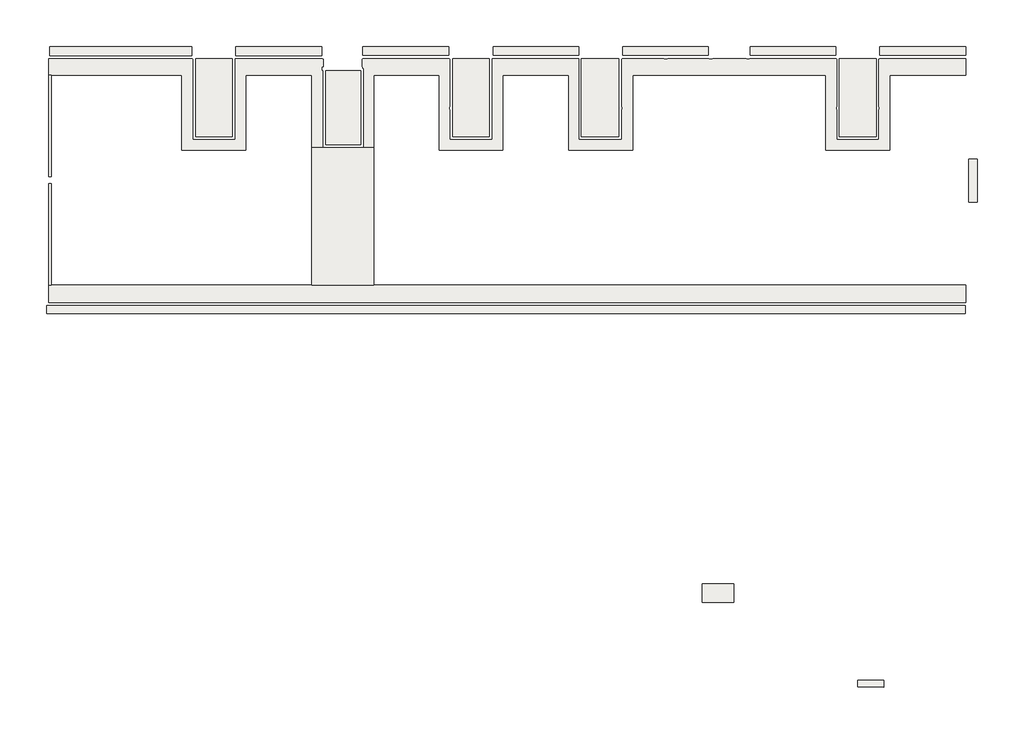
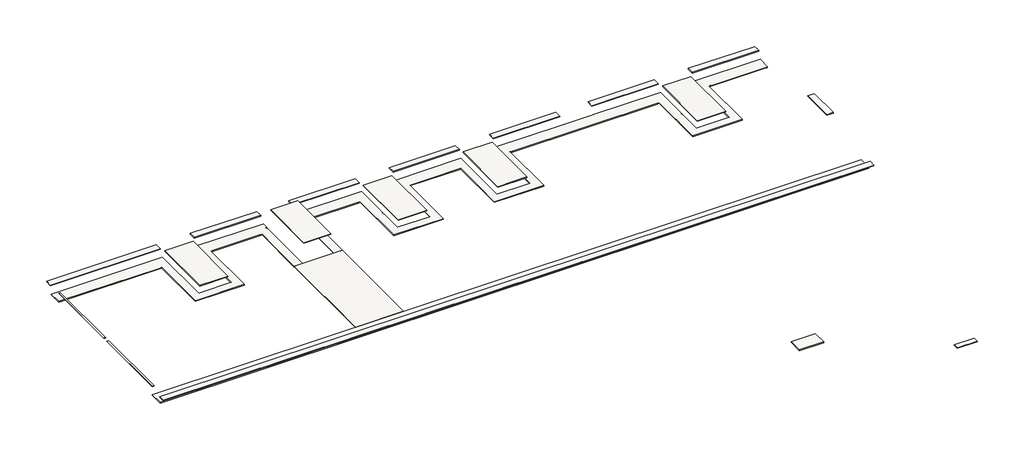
# One storey: 17 slabs.
"""IFC4 building model written with IfcOpenShell, lengths in millimetres."""

from ifc_helpers import new_model, si_unit, frame, origin, place, context, project, spatial, polyline, outline, extrude, element, save

model = new_model("IFC4")

# Units and contexts
model_context = context("Model", 3, world=origin())
ifc_project = project(units=[si_unit("LENGTHUNIT", "METRE", prefix="MILLI")], contexts=[model_context])

# Site, building, storey
site = spatial("IfcSite", under=ifc_project)
building = spatial("IfcBuilding", under=site)
storey = spatial("IfcBuildingStorey", under=building, Name="PLANTA DE IMPERMEABILIZAÇÃO - COBERTURA", Elevation=62540.0)

# Slabs
placement = place(None, origin())
element("IfcSlab", 1, ObjectType="Lajes de cobertura ou terraço", at=placement, inside=storey, context=model_context, shape_type="SweptSolid", body=[
    extrude(outline(polyline([(-45239.549875, 30656.8823997), (-45239.549875, 29873.2226879), (-57817.049875, 29873.2226879), (-57817.049875, 30656.8823997), (-45239.549875, 30656.8823997)])), frame((0.0, 0.0, 61165.0), z_axis=(0.0, 0.0, 1.0), x_axis=(1.0, 0.0, 0.0)), (0.0, 0.0, 1.0), 75.0),
])
element("IfcSlab", 2, ObjectType="Lajes de cobertura ou terraço", at=placement, inside=storey, context=model_context, shape_type="SweptSolid", body=[
    extrude(outline(polyline([(-33749.549875, 30656.8823997), (-33749.549875, 29873.2226879), (-41349.549875, 29873.2226879), (-41349.549875, 30656.8823997), (-33749.549875, 30656.8823997)])), frame((0.0, 0.0, 61165.0), z_axis=(0.0, 0.0, 1.0), x_axis=(1.0, 0.0, 0.0)), (0.0, 0.0, 1.0), 75.0),
])
element("IfcSlab", 3, ObjectType="Lajes de cobertura ou terraço", at=placement, inside=storey, context=model_context, shape_type="SweptSolid", body=[
    extrude(outline(polyline([(-22474.549875, 30656.8823997), (-22474.549875, 29881.8823991), (-30102.049875, 29881.8823991), (-30102.049875, 30656.8823997), (-22474.549875, 30656.8823997)])), frame((0.0, 0.0, 61165.0), z_axis=(0.0, 0.0, 1.0), x_axis=(1.0, 0.0, 0.0)), (0.0, 0.0, 1.0), 75.0),
])
element("IfcSlab", 4, ObjectType="Lajes de cobertura ou terraço", at=placement, inside=storey, context=model_context, shape_type="SweptSolid", body=[
    extrude(outline(polyline([(-10982.049875, 30656.8823997), (-10982.049875, 29893.7226879), (-18567.049875, 29893.7226879), (-18567.049875, 30656.8823997), (-10982.049875, 30656.8823997)])), frame((0.0, 0.0, 61165.0), z_axis=(0.0, 0.0, 1.0), x_axis=(1.0, 0.0, 0.0)), (0.0, 0.0, 1.0), 75.0),
])
element("IfcSlab", 5, ObjectType="Lajes de cobertura ou terraço", at=placement, inside=storey, context=model_context, shape_type="SweptSolid", body=[
    extrude(outline(polyline([(513.4501347, 30656.8823997), (513.4501347, 29881.8823991), (-7079.549875, 29881.8823991), (-7079.549875, 30656.8823997), (513.4501347, 30656.8823997)])), frame((0.0, 0.0, 61165.0), z_axis=(0.0, 0.0, 1.0), x_axis=(1.0, 0.0, 0.0)), (0.0, 0.0, 1.0), 75.0),
])
element("IfcSlab", 6, ObjectType="Lajes de cobertura ou terraço", at=placement, inside=storey, context=model_context, shape_type="SweptSolid", body=[
    extrude(outline(polyline([(11780.450125, 30656.8823997), (11780.450125, 29881.8823991), (4195.450125, 29881.8823991), (4195.450125, 30656.8823997), (11780.450125, 30656.8823997)])), frame((0.0, 0.0, 61165.0), z_axis=(0.0, 0.0, 1.0), x_axis=(1.0, 0.0, 0.0)), (0.0, 0.0, 1.0), 75.0),
])
element("IfcSlab", 7, ObjectType="Lajes de cobertura ou terraço", at=placement, inside=storey, context=model_context, shape_type="SweptSolid", body=[
    extrude(outline(polyline([(23280.450125, 30667.7071947), (23280.450125, 29881.8823991), (15687.950125, 29881.8823991), (15687.950125, 30667.7071947), (23280.450125, 30667.7071947)])), frame((0.0, 0.0, 61165.0), z_axis=(0.0, 0.0, 1.0), x_axis=(1.0, 0.0, 0.0)), (0.0, 0.0, 1.0), 75.0),
])
element("IfcSlab", 8, ObjectType="Lajes de cobertura ou terraço", at=placement, inside=storey, context=model_context, shape_type="SweptSolid", body=[
    extrude(outline(polyline([(23570.450125, 20672.5823991), (24332.0605113, 20672.5823991), (24332.0605113, 16899.3823991), (23570.450125, 16899.3823991), (23570.450125, 20672.5823991)])), frame((0.0, 0.0, 61165.0), z_axis=(0.0, 0.0, 1.0), x_axis=(1.0, 0.0, 0.0)), (0.0, 0.0, 1.0), 75.0),
])
element("IfcSlab", 9, ObjectType="Lajes de cobertura ou terraço", at=placement, inside=storey, context=model_context, shape_type="SweptSolid", body=[
    extrude(outline(polyline([(-58107.049875, 7726.8823909), (23272.3652158, 7726.8823909), (23272.3652158, 7010.5733494), (-58107.049875, 7010.5733494), (-58107.049875, 7726.8823909)])), frame((0.0, 0.0, 61165.0), z_axis=(0.0, 0.0, 1.0), x_axis=(1.0, 0.0, 0.0)), (0.0, 0.0, 1.0), 75.0),
])
element("IfcSlab", 10, ObjectType="Calhas, telhados metálicos, telhas, sheds, lajes inclinadas e vigas-calha", at=placement, inside=storey, context=model_context, shape_type="SweptSolid", body=[
    extrude(outline(polyline([(-57904.5498791, 7976.8823909), (-57904.5498791, 9512.2823996), (23280.4501291, 9512.2823996), (23280.4501291, 7976.8823909), (-57904.5498791, 7976.8823909)])), frame((0.0, 0.0, 60246.0), z_axis=(0.0, 0.0, 1.0), x_axis=(1.0, 0.0, 0.0)), (0.0, 0.0, 1.0), 94.0),
])
element("IfcSlab", 11, ObjectType="Lajes de cobertura ou terraço", at=placement, inside=storey, context=model_context, shape_type="SweptSolid", body=[
    extrude(outline(polyline([(-34599.549875, 9517.2823996), (-34599.549875, 21699.5070652), (-29147.049875, 21699.5070652), (-29147.049875, 9517.2823996), (-34599.549875, 9517.2823996)])), frame((0.0, 0.0, 60265.0), z_axis=(0.0, 0.0, 1.0), x_axis=(1.0, 0.0, 0.0)), (0.0, 0.0, 1.0), 75.0),
])
element("IfcSlab", 12, ObjectType="Calhas, telhados metálicos, telhas, sheds, lajes inclinadas e vigas-calha", at=placement, inside=storey, context=model_context, shape_type="SweptSolid", body=[
    extrude(outline(polyline([(-57707.049875, 28121.8823991), (-57904.5498791, 28121.8823991), (-57904.5498791, 29581.8824032), (-45204.5498791, 29581.8824032), (-45204.5498791, 29521.8824032), (-45159.5498791, 29521.8824032), (-45159.5498791, 22421.8823909), (-41414.5498709, 22421.8823909), (-41414.5498709, 29554.7226879), (-41384.5467035, 29554.7226879), (-41384.5467035, 29581.8824032), (-33704.5467035, 29581.8824032), (-33704.5467035, 29530.2226879), (-33609.549875, 29530.2226879), (-33609.549875, 28873.439065), (-33718.546705, 28873.439065), (-33718.546705, 28530.439065), (-33652.049875, 28530.439065), (-33652.049875, 21701.8823991), (-34599.549875, 21701.8823991), (-34599.549875, 28126.8823991), (-34844.549875, 28126.8823991), (-34844.549875, 28106.8823991), (-40217.049875, 28106.8823991), (-40217.049875, 28121.8823991), (-40457.049875, 28121.8823991), (-40457.049875, 21466.882395), (-46112.049875, 21466.882395), (-46112.049875, 28121.8823991), (-46352.049875, 28121.8823991), (-46352.049875, 28106.8823991), (-57707.049875, 28106.8823991), (-57707.049875, 28121.8823991)])), frame((0.0, 0.0, 60246.0), z_axis=(0.0, 0.0, 1.0), x_axis=(1.0, 0.0, 0.0)), (0.0, 0.0, 1.0), 94.0),
    extrude(outline(polyline([(-30034.549875, 21699.5070652), (-30034.549875, 28761.8823991), (-30090.5467035, 28761.8823991), (-30090.5467035, 28873.439065), (-30134.549875, 28873.439065), (-30134.549875, 29530.2226879), (-30090.5467035, 29530.2226879), (-30090.5467035, 29581.8824032), (-22448.5467035, 29581.8824032), (-22448.5467035, 29530.2226879), (-22394.549875, 29530.2226879), (-22394.549875, 25348.7226891), (-22424.5467035, 25348.7226891), (-22424.5467035, 25054.7226891), (-22394.549875, 25054.7226891), (-22394.549875, 22421.882395), (-18649.549875, 22421.882395), (-18649.549875, 25054.7226891), (-18619.5467035, 25054.7226891), (-18619.5467035, 25348.7226891), (-18649.549875, 25348.7226891), (-18649.549875, 29554.7226879), (-18619.549875, 29554.7226879), (-18619.549875, 29581.8824032), (-10984.549875, 29581.8824032), (-10984.549875, 22421.882395), (-7159.549875, 22421.882395), (-7159.549875, 25054.7226891), (-7129.5467035, 25054.7226891), (-7129.5467035, 25348.7226891), (-7160.0482892, 25348.7226891), (-7160.0482892, 29530.2226879), (-7105.5467035, 29530.2226879), (-7105.5467035, 29581.8824032), (-3456.0467035, 29581.8824032), (-3456.0467035, 29530.2226879), (-3108.0467035, 29530.2226879), (-3108.0467035, 29581.8824032), (541.4532965, 29581.8824032), (541.4532965, 29530.2226879), (889.4532965, 29530.2226879), (889.4532965, 29581.8824032), (3845.4532965, 29581.8824032), (3845.4532965, 29554.7226879), (4145.4532965, 29554.7226879), (4145.4532965, 29581.8824032), (11806.4532965, 29581.8824032), (11806.4532965, 29530.2226879), (11860.450125, 29530.2226879), (11860.450125, 25348.7226891), (11830.4532965, 25348.7226891), (11830.4532965, 25054.7226891), (11860.450125, 25054.7226891), (11860.450125, 22421.882395), (15605.450125, 22421.882395), (15605.450125, 25054.7226891), (15635.4532965, 25054.7226891), (15635.4532965, 25348.7226891), (15606.2017108, 25348.7226891), (15606.2017108, 29530.2226879), (15659.4532965, 29530.2226879), (15659.4532965, 29581.8824032), (23280.450125, 29581.8824032), (23280.450125, 28121.8823991), (23160.450125, 28121.8823991), (23160.450125, 28106.8823991), (16800.450125, 28106.8823991), (16800.450125, 28121.8823991), (16560.450125, 28121.8823991), (16560.450125, 21466.882395), (10905.450125, 21466.882395), (10905.450125, 28121.8823991), (10665.450125, 28121.8823991), (10665.450125, 28106.8823991), (-5964.549875, 28106.8823991), (-5964.549875, 28121.8823991), (-6204.549875, 28121.8823991), (-6204.549875, 21466.882395), (-11854.549875, 21466.882395), (-11854.549875, 28121.8823991), (-17694.549875, 28121.8823991), (-17694.549875, 21466.882395), (-23349.549875, 21466.882395), (-23349.549875, 28121.8823991), (-23589.549875, 28121.8823991), (-23589.549875, 28106.4002746), (-29147.049875, 28106.4002746), (-29147.049875, 21699.5070652), (-30034.549875, 21699.5070652)])), frame((0.0, 0.0, 60246.0), z_axis=(0.0, 0.0, 1.0), x_axis=(1.0, 0.0, 0.0)), (0.0, 0.0, 1.0), 94.0),
])
element("IfcSlab", 13, ObjectType="Lajes de cobertura ou terraço", at=placement, inside=storey, context=model_context, shape_type="SweptSolid", body=[
    extrude(outline(polyline([(-41664.5467035, 22671.8823909), (-44909.5498791, 22671.8823909), (-44909.5498791, 29574.7226879), (-41664.5467035, 29574.7226879), (-41664.5467035, 22671.8823909)])), frame((0.0, 0.0, 60965.0), z_axis=(0.0, 0.0, 1.0), x_axis=(1.0, 0.0, 0.0)), (0.0, 0.0, 1.0), 75.0),
    extrude(outline(polyline([(-18899.5467035, 22671.882395), (-22144.549875, 22671.882395), (-22144.549875, 29574.7226879), (-18899.5467035, 29574.7226879), (-18899.5467035, 22671.882395)])), frame((0.0, 0.0, 60965.0), z_axis=(0.0, 0.0, 1.0), x_axis=(1.0, 0.0, 0.0)), (0.0, 0.0, 1.0), 75.0),
    extrude(outline(polyline([(-7411.9576067, 22671.882395), (-10734.549875, 22671.882395), (-10734.549875, 29581.8824032), (-7411.9576067, 29581.8824032), (-7411.9576067, 22671.882395)])), frame((0.0, 0.0, 60965.0), z_axis=(0.0, 0.0, 1.0), x_axis=(1.0, 0.0, 0.0)), (0.0, 0.0, 1.0), 75.0),
    extrude(outline(polyline([(15347.947473, 22671.882395), (12110.450125, 22671.882395), (12110.450125, 29581.8824032), (15347.947473, 29581.8824032), (15347.947473, 22671.882395)])), frame((0.0, 0.0, 60965.0), z_axis=(0.0, 0.0, 1.0), x_axis=(1.0, 0.0, 0.0)), (0.0, 0.0, 1.0), 75.0),
])
element("IfcSlab", 14, ObjectType="Lajes de cobertura ou terraço", at=placement, inside=storey, context=model_context, shape_type="SweptSolid", body=[
    extrude(outline(polyline([(-30284.549875, 28511.8823991), (-30284.549875, 21951.8823991), (-33402.049875, 21951.8823991), (-33402.049875, 28511.8823991), (-30284.549875, 28511.8823991)])), frame((0.0, 0.0, 62565.0), z_axis=(0.0, 0.0, 1.0), x_axis=(1.0, 0.0, 0.0)), (0.0, 0.0, 1.0), 75.0),
])
element("IfcSlab", 15, ObjectType="Rufo", at=placement, inside=storey, context=model_context, shape_type="SweptSolid", body=[
    extrude(outline(polyline([(-57707.049875, 28121.8823991), (-57707.049875, 19119.9010586), (-57904.5498791, 19119.9010586), (-57904.5498791, 28121.8823991), (-57707.049875, 28121.8823991)])), frame((0.0, 0.0, 61320.0), z_axis=(0.0, 0.0, 1.0), x_axis=(1.0, 0.0, 0.0)), (0.0, 0.0, 1.0), 20.0),
    extrude(outline(polyline([(-57707.049875, 18514.616079), (-57707.049875, 9517.2823996), (-57904.5498791, 9517.2823996), (-57904.5498791, 18514.616079), (-57707.049875, 18514.616079)])), frame((0.0, 0.0, 61320.0), z_axis=(0.0, 0.0, 1.0), x_axis=(1.0, 0.0, 0.0)), (0.0, 0.0, 1.0), 20.0),
])
element("IfcSlab", 16, ObjectType="Lajes de cobertura ou terraço", at=placement, inside=storey, context=model_context, shape_type="SweptSolid", body=[
    extrude(outline(polyline([(2757.4501163, -16955.6176009), (2757.4501163, -18605.0378744), (-33.0143718, -18605.0378744), (-33.0143718, -16955.6176009), (2757.4501163, -16955.6176009)])), frame((0.0, 0.0, 62465.0), z_axis=(0.0, 0.0, 1.0), x_axis=(1.0, 0.0, 0.0)), (0.0, 0.0, 1.0), 75.0),
])
element("IfcSlab", 17, ObjectType="Lajes de cobertura ou terraço", at=placement, inside=storey, context=model_context, shape_type="SweptSolid", body=[
    extrude(outline(polyline([(13712.1190322, -25489.4748247), (16012.119032, -25489.4748247), (16012.119032, -26128.4299424), (13712.1190322, -26082.6489296), (13712.1190322, -25489.4748247)])), frame((0.0, 0.0, 62465.0), z_axis=(0.0, 0.0, 1.0), x_axis=(1.0, 0.0, 0.0)), (0.0, 0.0, 1.0), 75.0),
])

save(model, "model.ifc")
